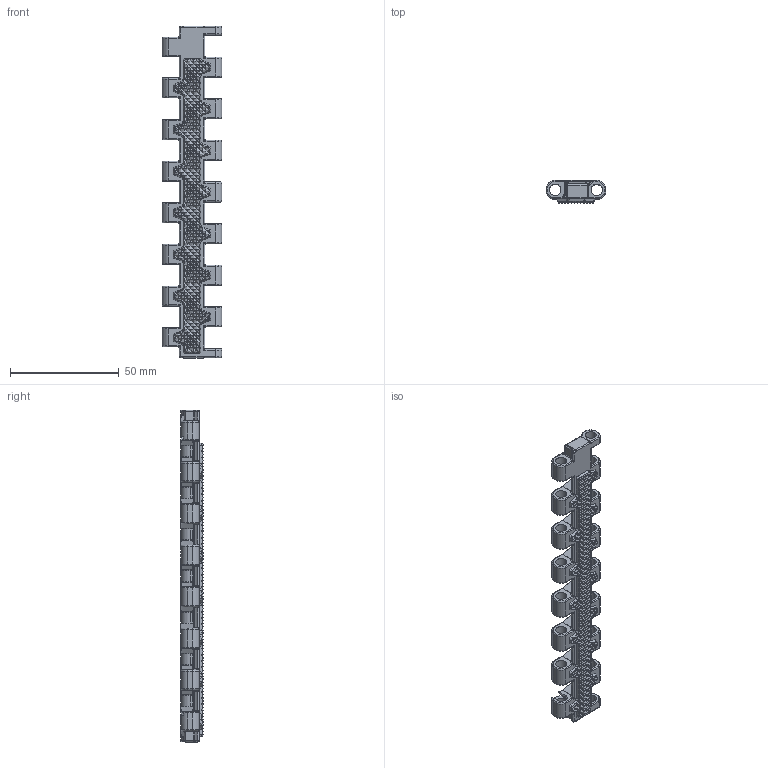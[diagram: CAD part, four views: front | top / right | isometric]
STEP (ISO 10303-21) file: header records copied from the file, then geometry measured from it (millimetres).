
FILE_DESCRIPTION((''),'2;1');
FILE_NAME('K39','2012-09-11T',('jas'),(''),'PRO/ENGINEER BY PARAMETRIC TECHNOLOGY CORPORATION, 2012230','PRO/ENGINEER BY PARAMETRIC TECHNOLOGY CORPORATION, 2012230','');
FILE_SCHEMA(('AUTOMOTIVE_DESIGN { 1 0 10303 214 1 1 1 1 }'));
Products named in the file (1): K39
Bounding box: 27.53 x 10.5 x 152.4 mm (x, y, z)
Volume: 13562.3 mm3; surface area: 13992.2 mm2
Topology: 1 solids, 1 shells, 3261 faces, 6895 edges, 3646 vertices
Faces by surface type: plane 1959, cylinder 740, torus 250, bspline 205, sphere 105, cone 2
Entity records: 101302 total; most frequent: CARTESIAN_POINT 35230, ORIENTED_EDGE 13790, DIRECTION 13030, EDGE_CURVE 6895, AXIS2_PLACEMENT_3D 4469, VECTOR 4092, LINE 4092, VERTEX_POINT 3646
